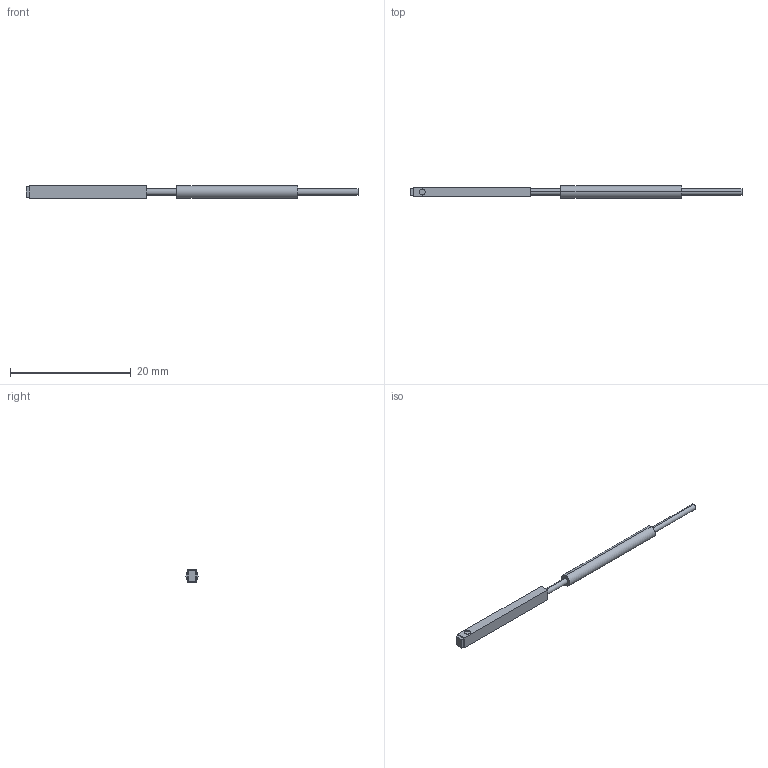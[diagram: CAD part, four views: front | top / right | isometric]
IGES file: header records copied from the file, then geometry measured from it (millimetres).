
Start section: SolidWorks IGES FILE using analytic representation for surfaces
Global section: file name: \\intra-srv04\開発データ\CAD_Data\CAD委員会\3D電子ｶﾀﾛｸﾞ\製品カタログ（新）\0_IGES\FT-KV1.IGS,41HSolidWorks 2004; native system: by SolidWorks Corporation; preprocessor: Version 5.3; author: mf1158; date: 050908.105834; units: millimetre
Bounding box: 55 x 2 x 2 mm (x, y, z)
Volume: 134.1 mm3; surface area: 323.3 mm2
Topology: 1 solids, 1 shells, 23 faces, 48 edges, 32 vertices
Faces by surface type: plane 15, revolution 8
